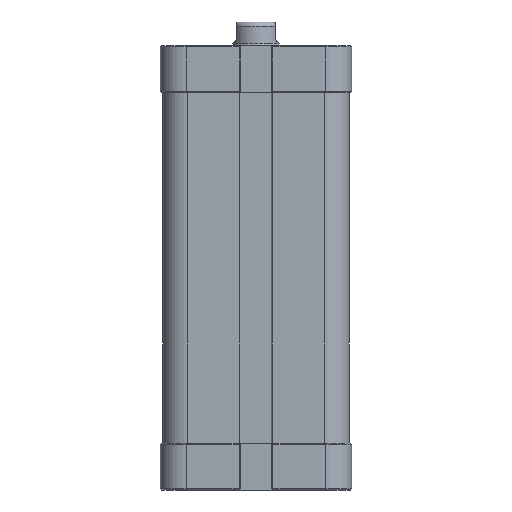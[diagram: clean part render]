
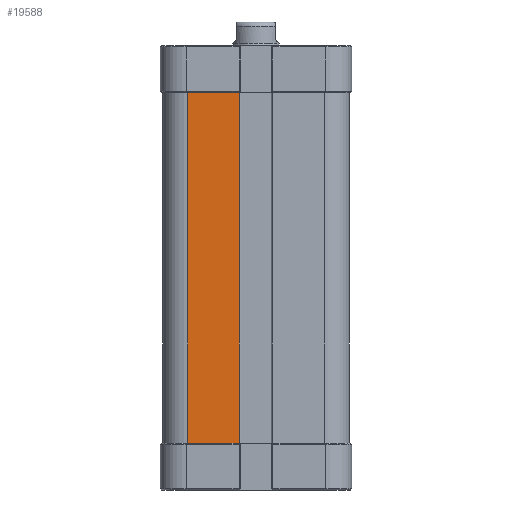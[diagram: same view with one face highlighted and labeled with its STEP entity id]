
A CAD part, front view. The second image highlights one B-rep face of the part: STEP entity #19588.
In plain terms, the highlighted planar face has unit normal (0, -1, 0).
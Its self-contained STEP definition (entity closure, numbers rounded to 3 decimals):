
#1223 = DIRECTION ( 'NONE',  ( 0., 0., -1. ) ) ;
#1874 = VERTEX_POINT ( 'NONE', #16321 ) ;
#2107 = DIRECTION ( 'NONE',  ( 0., 0., 1. ) ) ;
#3289 = LINE ( 'NONE', #12460, #14995 ) ;
#3696 = CARTESIAN_POINT ( 'NONE',  ( -5.575, -31.5, 18.4 ) ) ;
#4444 = CARTESIAN_POINT ( 'NONE',  ( -23., -31.5, 18.4 ) ) ;
#4935 = LINE ( 'NONE', #8588, #18174 ) ;
#6711 = EDGE_CURVE ( 'NONE', #1874, #20160, #3289, .T. ) ;
#6991 = PLANE ( 'NONE',  #24055 ) ;
#8588 = CARTESIAN_POINT ( 'NONE',  ( -23., -31.5, 18.4 ) ) ;
#9133 = DIRECTION ( 'NONE',  ( 0., 1., 0. ) ) ;
#9771 = VERTEX_POINT ( 'NONE', #3696 ) ;
#10801 = LINE ( 'NONE', #22149, #28297 ) ;
#12192 = LINE ( 'NONE', #18212, #17350 ) ;
#12460 = CARTESIAN_POINT ( 'NONE',  ( -23., -31.5, 18.4 ) ) ;
#13338 = DIRECTION ( 'NONE',  ( 1., 0., 0. ) ) ;
#14995 = VECTOR ( 'NONE', #1223, 1000. ) ;
#15550 = ORIENTED_EDGE ( 'NONE', *, *, #18958, .T. ) ;
#16321 = CARTESIAN_POINT ( 'NONE',  ( -23., -31.5, 18.4 ) ) ;
#16580 = VERTEX_POINT ( 'NONE', #21983 ) ;
#17350 = VECTOR ( 'NONE', #2107, 1000. ) ;
#17899 = ORIENTED_EDGE ( 'NONE', *, *, #6711, .T. ) ;
#18174 = VECTOR ( 'NONE', #22416, 1000. ) ;
#18212 = CARTESIAN_POINT ( 'NONE',  ( -5.575, -31.5, 18.4 ) ) ;
#18958 = EDGE_CURVE ( 'NONE', #20160, #16580, #10801, .T. ) ;
#19588 = ADVANCED_FACE ( 'NONE', ( #22144 ), #6991, .F. ) ;
#19780 = ORIENTED_EDGE ( 'NONE', *, *, #23092, .F. ) ;
#20160 = VERTEX_POINT ( 'NONE', #25652 ) ;
#21983 = CARTESIAN_POINT ( 'NONE',  ( -5.575, -31.5, -100. ) ) ;
#22144 = FACE_OUTER_BOUND ( 'NONE', #23383, .T. ) ;
#22149 = CARTESIAN_POINT ( 'NONE',  ( -23., -31.5, -100. ) ) ;
#22416 = DIRECTION ( 'NONE',  ( 1., 0., 0. ) ) ;
#23092 = EDGE_CURVE ( 'NONE', #1874, #9771, #4935, .T. ) ;
#23366 = DIRECTION ( 'NONE',  ( -1., 0., 0. ) ) ;
#23383 = EDGE_LOOP ( 'NONE', ( #15550, #25273, #19780, #17899 ) ) ;
#23727 = EDGE_CURVE ( 'NONE', #16580, #9771, #12192, .T. ) ;
#24055 = AXIS2_PLACEMENT_3D ( 'NONE', #4444, #9133, #23366 ) ;
#25273 = ORIENTED_EDGE ( 'NONE', *, *, #23727, .T. ) ;
#25652 = CARTESIAN_POINT ( 'NONE',  ( -23., -31.5, -100. ) ) ;
#28297 = VECTOR ( 'NONE', #13338, 1000. ) ;
